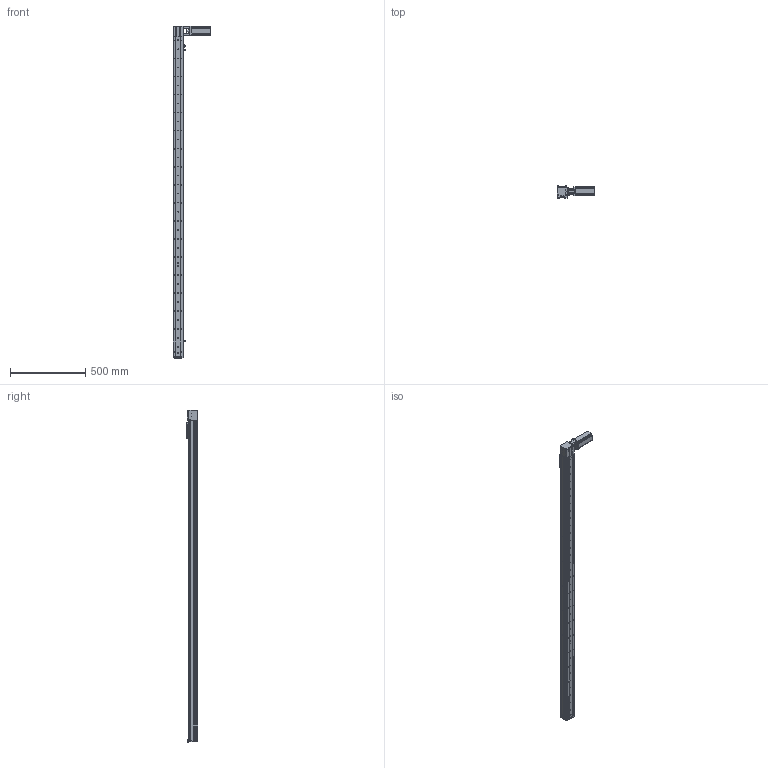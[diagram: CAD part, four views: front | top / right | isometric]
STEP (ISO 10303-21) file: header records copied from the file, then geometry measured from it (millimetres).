
FILE_DESCRIPTION (( 'STEP AP214' ), '1' );
FILE_NAME ('KSD68BS-S1950-MRT-CR.STEP', '2019-11-07T07:04:36', ( '微软用户' ), ( '微软中国' ), 'SwSTEP 2.0', 'SolidWorks 2014', '' );
FILE_SCHEMA (( 'AUTOMOTIVE_DESIGN' ));
Length unit declared in the file: millimetre
Products named in the file (13): 台达ECMA－C20604AS伺服电机（400W); KSD68BS 1950行程底板全封闭; KSD68BS-S1950-MRT-CR; 100遵鎮湛假蚾啣1; KSD68BS 1950行程盖板全封闭; 68遵裔啣揤啣1; 68宽单导轨全封闭丝杆传动安装板1防护罩; KSD68BS 1950行程侧板全封闭; 68宽单导轨全封闭同步带端板; 68单导轨全封闭同步带电机座左; 68单导轨全封闭同步带安装板; 感应片68宽全封闭; U倰嫖萇EEㄜSX672
Assembly tree (16 placements, depth 2):
  KSD68BS-S1950-MRT-CR
    KSD68BS 1950行程底板全封闭
    台达ECMA－C20604AS伺服电机（400W)
    U倰嫖萇EEㄜSX672  x3
    感应片68宽全封闭
    68单导轨全封闭同步带安装板
    68单导轨全封闭同步带电机座左
    68宽单导轨全封闭同步带端板
    KSD68BS 1950行程侧板全封闭  x2
    68宽单导轨全封闭丝杆传动安装板1防护罩
    68遵裔啣揤啣1  x2
    KSD68BS 1950行程盖板全封闭
    100遵鎮湛假蚾啣1
Bounding box: 252.7 x 77 x 2208.1 mm (x, y, z)
Volume: 3765226 mm3; surface area: 1537265.9 mm2
Topology: 17 solids, 17 shells, 1595 faces, 4628 edges, 2940 vertices
Faces by surface type: cylinder 793, plane 602, cone 200
Entity records: 52882 total; most frequent: CARTESIAN_POINT 9265, DIRECTION 7775, ORIENTED_EDGE 7444, EDGE_CURVE 3722, AXIS2_PLACEMENT_3D 2854, VERTEX_POINT 2438, LINE 2067, VECTOR 2067
